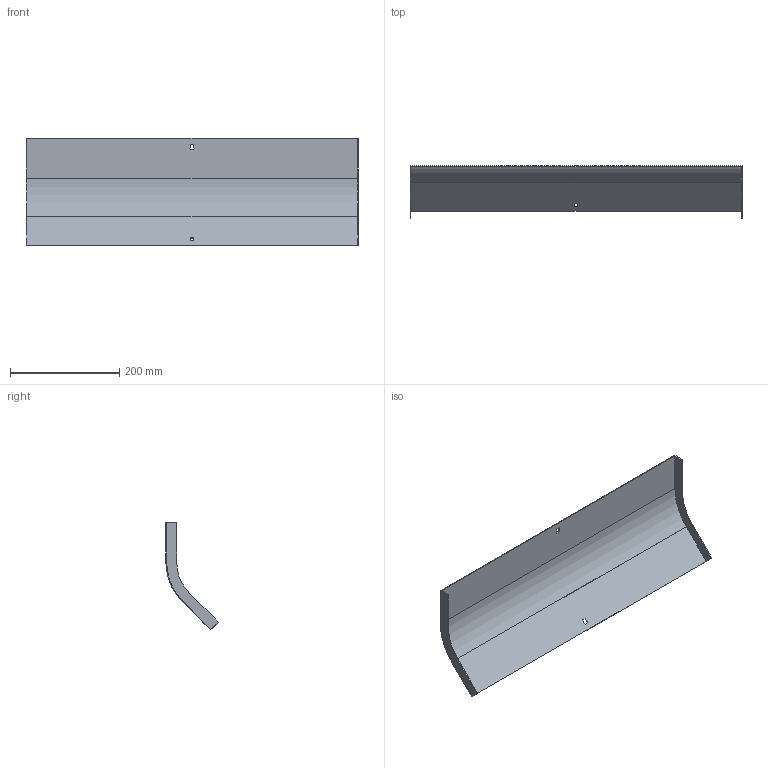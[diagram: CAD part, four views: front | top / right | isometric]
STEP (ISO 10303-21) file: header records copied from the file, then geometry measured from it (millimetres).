
FILE_DESCRIPTION (( 'STEP AP214' ), '1' );
FILE_NAME ('34G1D600.step', '2025-02-21T12:42:34', ( '' ), ( '' ), 'SwSTEP 2.0', 'SolidWorks 2023', '' );
FILE_SCHEMA (( 'AUTOMOTIVE_DESIGN' ));
Length unit declared in the file: millimetre
Products named in the file (1): 34G1D600
Bounding box: 607 x 95.56 x 196.56 mm (x, y, z)
Volume: 217056.3 mm3; surface area: 292065.8 mm2
Topology: 1 solids, 1 shells, 26 faces, 72 edges, 48 vertices
Faces by surface type: plane 22, cylinder 4
Entity records: 855 total; most frequent: CARTESIAN_POINT 147, ORIENTED_EDGE 144, DIRECTION 134, EDGE_CURVE 72, VECTOR 64, LINE 64, VERTEX_POINT 48, AXIS2_PLACEMENT_3D 35
